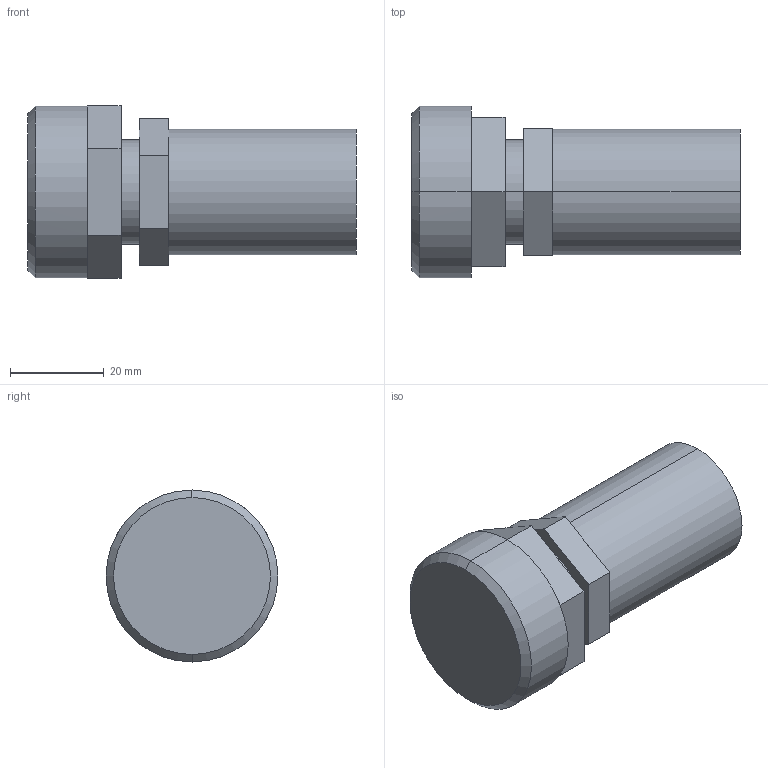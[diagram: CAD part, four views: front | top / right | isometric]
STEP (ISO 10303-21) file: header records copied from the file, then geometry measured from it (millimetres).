
FILE_DESCRIPTION (( 'STEP AP214' ), '1' );
FILE_NAME ('12-weldable-with-top-mount-adapter.STEP', '2012-11-28T15:32:06', ( '' ), ( '' ), 'SwSTEP 2.0', 'SolidWorks 2012', '' );
FILE_SCHEMA (( 'AUTOMOTIVE_DESIGN' ));
Length unit declared in the file: inch
Products named in the file (1): 12-weldable-with-top-mount-adapter
Bounding box: 69.9 x 36.6 x 36.66 mm (x, y, z)
Volume: 47428.7 mm3; surface area: 8944.8 mm2
Topology: 1 solids, 1 shells, 37 faces, 82 edges, 50 vertices
Faces by surface type: plane 29, cylinder 6, cone 2
Entity records: 1531 total; most frequent: DIRECTION 184, CARTESIAN_POINT 170, ORIENTED_EDGE 164, EDGE_CURVE 82, AXIS2_PLACEMENT_3D 64, VECTOR 56, LINE 56, VERTEX_POINT 50
